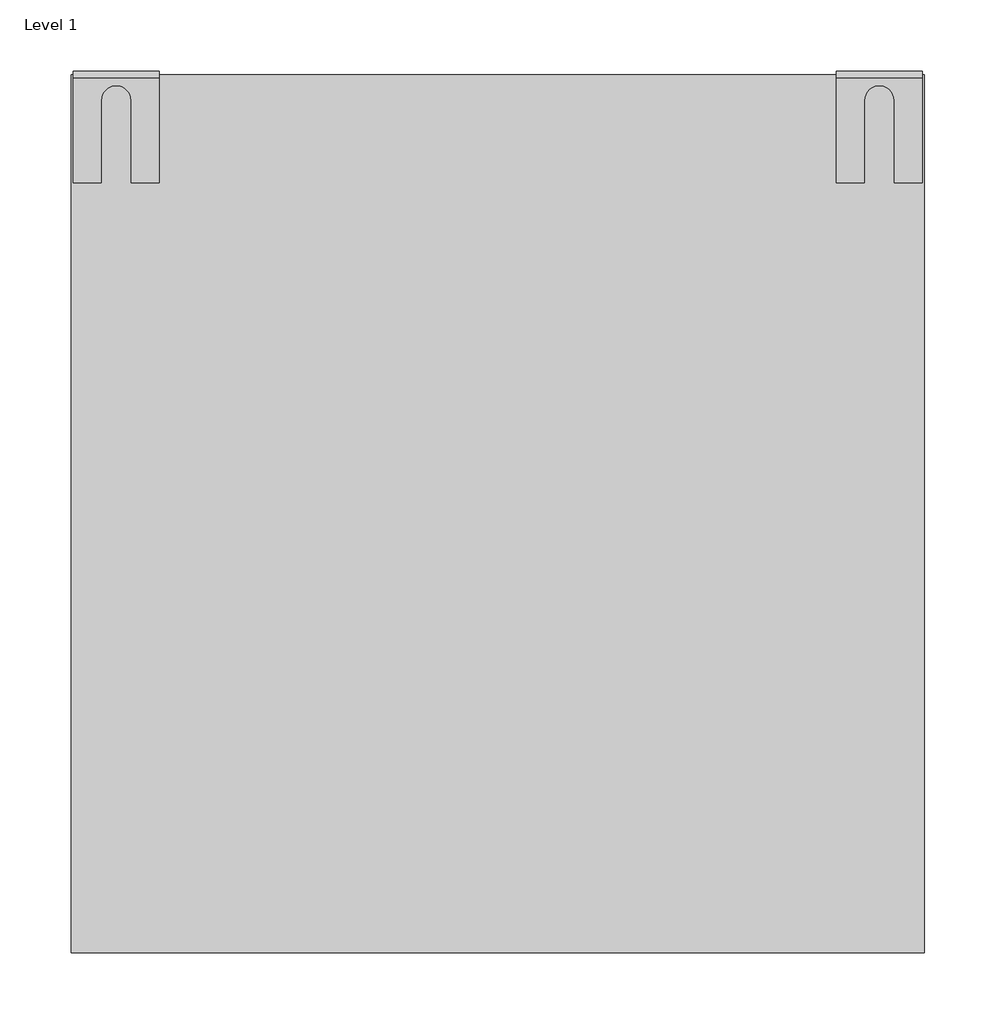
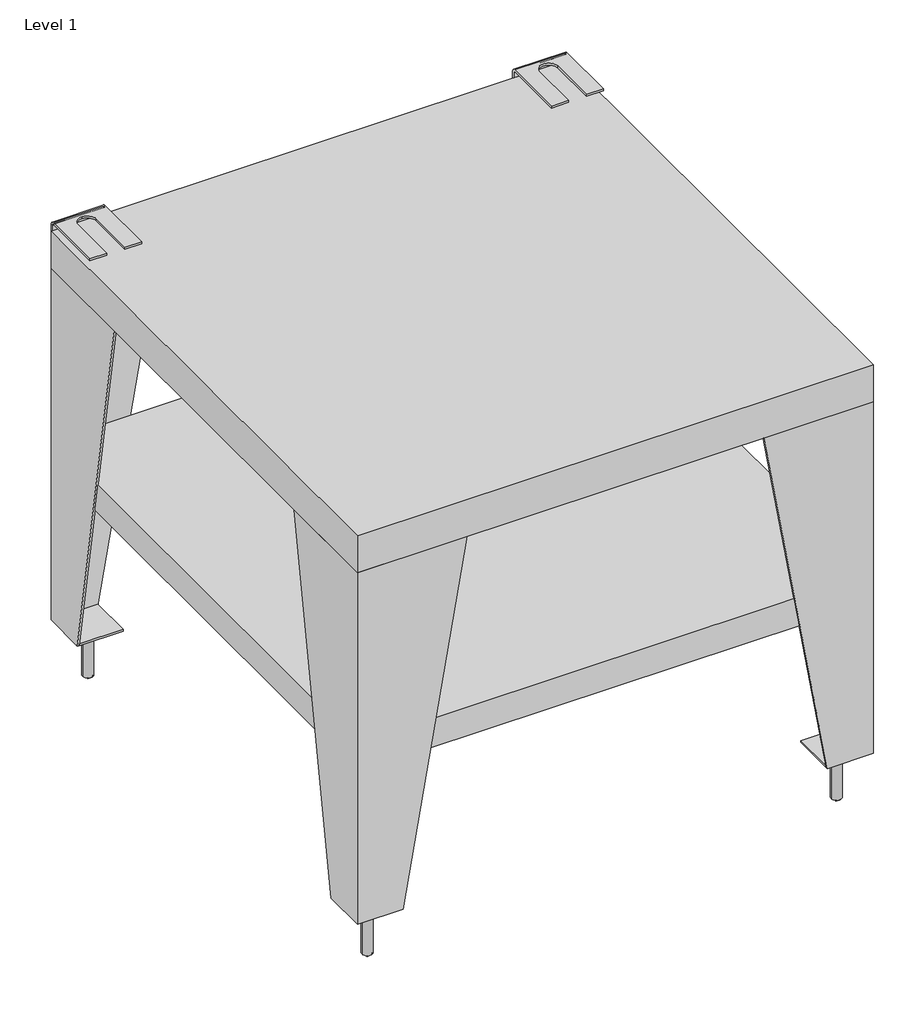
# One storey: 1 proxy.
"""IFC4 building model written with IfcOpenShell, lengths in millimetres."""

from ifc_helpers import new_model, si_unit, origin, place, context, project, spatial, transform, mapped, element, save
from components import specialty_equipment_88715327

model = new_model("IFC4")

# Units and contexts
model_context = context("Model", 3, world=origin())
ifc_project = project(units=[si_unit("LENGTHUNIT", "METRE", prefix="MILLI")], contexts=[model_context])

# Site, building, storey
site = spatial("IfcSite", under=ifc_project)
building = spatial("IfcBuilding", under=site)
storey = spatial("IfcBuildingStorey", under=building, Name="Level 1", Elevation=0.0)

# Proxy
placement = place(None, origin())
specialty_equipment_shape = specialty_equipment_88715327(model_context)
element("IfcBuildingElementProxy", 1, Name="11318820_D_APCL007_OB : 59590012_D_11318820_APCL007_OB", ObjectType="11318820_D_APCL007_OB : 59590012_D_11318820_APCL007_OB", at=placement, inside=storey, context=model_context, shape_type="MappedRepresentation", body=[
    mapped(specialty_equipment_shape, transform((0.0, 0.0, 0.0), x_axis=(1.0, 0.0, 0.0), y_axis=(0.0, 1.0, 0.0), z_axis=(0.0, 0.0, 1.0))),
])

save(model, "model.ifc")
